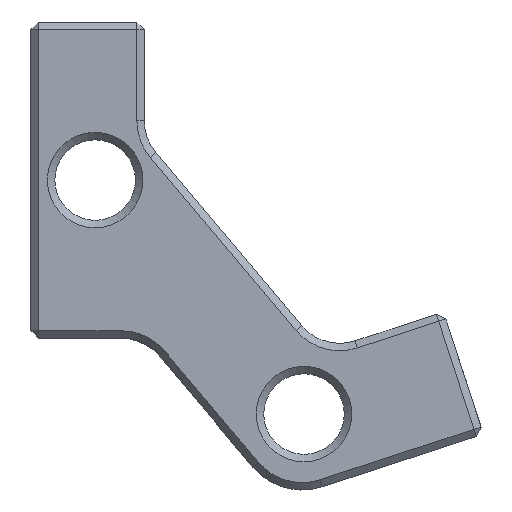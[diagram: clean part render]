
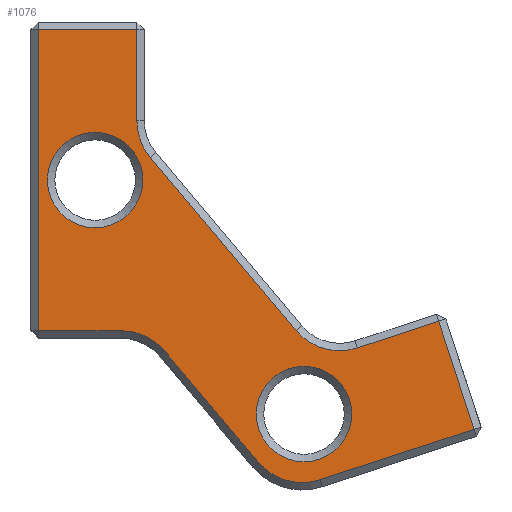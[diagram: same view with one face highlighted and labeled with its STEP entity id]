
A CAD part, front view. The second image highlights one B-rep face of the part: STEP entity #1076.
In plain terms, the highlighted planar face has unit normal (0, -1, 0).
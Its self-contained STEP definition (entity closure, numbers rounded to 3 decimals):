
#33=FACE_BOUND('',#162,.T.);
#34=FACE_BOUND('',#163,.T.);
#39=PLANE('',#1166);
#87=FACE_OUTER_BOUND('',#161,.T.);
#161=EDGE_LOOP('',(#752,#753,#754,#755,#756,#757,#758,#759,#760,#761,#762,
#763,#764));
#162=EDGE_LOOP('',(#765));
#163=EDGE_LOOP('',(#766));
#241=LINE('',#1606,#357);
#242=LINE('',#1610,#358);
#243=LINE('',#1614,#359);
#244=LINE('',#1616,#360);
#245=LINE('',#1618,#361);
#246=LINE('',#1620,#362);
#247=LINE('',#1624,#363);
#248=LINE('',#1628,#364);
#249=LINE('',#1629,#365);
#357=VECTOR('',#1279,10.);
#358=VECTOR('',#1282,10.);
#359=VECTOR('',#1285,10.);
#360=VECTOR('',#1286,10.);
#361=VECTOR('',#1287,10.);
#362=VECTOR('',#1288,10.);
#363=VECTOR('',#1291,10.);
#364=VECTOR('',#1294,10.);
#365=VECTOR('',#1295,10.);
#472=CIRCLE('',#1164,9.65);
#474=CIRCLE('',#1167,11.5);
#475=CIRCLE('',#1168,11.5);
#476=CIRCLE('',#1169,11.5);
#477=CIRCLE('',#1170,11.5);
#478=CIRCLE('',#1171,9.65);
#506=VERTEX_POINT('',#1598);
#508=VERTEX_POINT('',#1604);
#509=VERTEX_POINT('',#1605);
#510=VERTEX_POINT('',#1607);
#511=VERTEX_POINT('',#1609);
#512=VERTEX_POINT('',#1611);
#513=VERTEX_POINT('',#1613);
#514=VERTEX_POINT('',#1615);
#515=VERTEX_POINT('',#1617);
#516=VERTEX_POINT('',#1619);
#517=VERTEX_POINT('',#1621);
#518=VERTEX_POINT('',#1623);
#519=VERTEX_POINT('',#1625);
#520=VERTEX_POINT('',#1627);
#521=VERTEX_POINT('',#1630);
#592=EDGE_CURVE('',#506,#506,#472,.T.);
#595=EDGE_CURVE('',#508,#509,#241,.T.);
#596=EDGE_CURVE('',#510,#508,#474,.T.);
#597=EDGE_CURVE('',#511,#510,#242,.T.);
#598=EDGE_CURVE('',#512,#511,#475,.T.);
#599=EDGE_CURVE('',#513,#512,#243,.T.);
#600=EDGE_CURVE('',#514,#513,#244,.T.);
#601=EDGE_CURVE('',#515,#514,#245,.T.);
#602=EDGE_CURVE('',#516,#515,#246,.T.);
#603=EDGE_CURVE('',#517,#516,#476,.T.);
#604=EDGE_CURVE('',#518,#517,#247,.T.);
#605=EDGE_CURVE('',#519,#518,#477,.T.);
#606=EDGE_CURVE('',#520,#519,#248,.T.);
#607=EDGE_CURVE('',#509,#520,#249,.T.);
#608=EDGE_CURVE('',#521,#521,#478,.T.);
#752=ORIENTED_EDGE('',*,*,#595,.F.);
#753=ORIENTED_EDGE('',*,*,#596,.F.);
#754=ORIENTED_EDGE('',*,*,#597,.F.);
#755=ORIENTED_EDGE('',*,*,#598,.F.);
#756=ORIENTED_EDGE('',*,*,#599,.F.);
#757=ORIENTED_EDGE('',*,*,#600,.F.);
#758=ORIENTED_EDGE('',*,*,#601,.F.);
#759=ORIENTED_EDGE('',*,*,#602,.F.);
#760=ORIENTED_EDGE('',*,*,#603,.F.);
#761=ORIENTED_EDGE('',*,*,#604,.F.);
#762=ORIENTED_EDGE('',*,*,#605,.F.);
#763=ORIENTED_EDGE('',*,*,#606,.F.);
#764=ORIENTED_EDGE('',*,*,#607,.F.);
#765=ORIENTED_EDGE('',*,*,#608,.F.);
#766=ORIENTED_EDGE('',*,*,#592,.F.);
#1076=ADVANCED_FACE('',(#87,#33,#34),#39,.F.);
#1164=AXIS2_PLACEMENT_3D('',#1599,#1272,#1273);
#1166=AXIS2_PLACEMENT_3D('',#1603,#1277,#1278);
#1167=AXIS2_PLACEMENT_3D('',#1608,#1280,#1281);
#1168=AXIS2_PLACEMENT_3D('',#1612,#1283,#1284);
#1169=AXIS2_PLACEMENT_3D('',#1622,#1289,#1290);
#1170=AXIS2_PLACEMENT_3D('',#1626,#1292,#1293);
#1171=AXIS2_PLACEMENT_3D('',#1631,#1296,#1297);
#1272=DIRECTION('center_axis',(0.,-1.,0.));
#1273=DIRECTION('ref_axis',(1.,0.,0.));
#1277=DIRECTION('center_axis',(0.,1.,0.));
#1278=DIRECTION('ref_axis',(1.,0.,0.));
#1279=DIRECTION('',(0.95,0.,0.311));
#1280=DIRECTION('center_axis',(0.,-1.,0.));
#1281=DIRECTION('ref_axis',(-0.274,0.,-0.962));
#1282=DIRECTION('',(0.644,0.,-0.765));
#1283=DIRECTION('center_axis',(0.,-1.,0.));
#1284=DIRECTION('ref_axis',(-0.939,0.,-0.343));
#1285=DIRECTION('',(0.,0.,-1.));
#1286=DIRECTION('',(1.,0.,0.));
#1287=DIRECTION('',(0.,0.,1.));
#1288=DIRECTION('',(-1.,0.,0.));
#1289=DIRECTION('center_axis',(0.,-1.,0.));
#1290=DIRECTION('ref_axis',(0.422,0.,0.907));
#1291=DIRECTION('',(-0.644,0.,0.765));
#1292=DIRECTION('center_axis',(0.,1.,0.));
#1293=DIRECTION('ref_axis',(-1.,0.,0.));
#1294=DIRECTION('',(-0.95,0.,-0.311));
#1295=DIRECTION('',(0.311,0.,-0.95));
#1296=DIRECTION('center_axis',(0.,-1.,0.));
#1297=DIRECTION('ref_axis',(1.,0.,0.));
#1598=CARTESIAN_POINT('',(-9.248,-26.,126.355));
#1599=CARTESIAN_POINT('Origin',(0.402,-26.,126.355));
#1603=CARTESIAN_POINT('Origin',(-9.084,-26.,158.341));
#1604=CARTESIAN_POINT('',(11.172,-26.,139.736));
#1605=CARTESIAN_POINT('',(27.665,-26.,145.127));
#1606=CARTESIAN_POINT('',(13.729,-26.,140.571));
#1607=CARTESIAN_POINT('',(-1.197,-26.,143.258));
#1608=CARTESIAN_POINT('Origin',(7.599,-26.,150.666));
#1609=CARTESIAN_POINT('',(-30.724,-26.,178.318));
#1610=CARTESIAN_POINT('',(-4.377,-26.,147.034));
#1611=CARTESIAN_POINT('',(-33.428,-26.,185.726));
#1612=CARTESIAN_POINT('Origin',(-21.928,-26.,185.726));
#1613=CARTESIAN_POINT('',(-33.428,-26.,204.198));
#1614=CARTESIAN_POINT('',(-33.428,-26.,170.208));
#1615=CARTESIAN_POINT('',(-53.371,-26.,204.198));
#1616=CARTESIAN_POINT('',(-20.506,-26.,204.198));
#1617=CARTESIAN_POINT('',(-53.371,-26.,143.214));
#1618=CARTESIAN_POINT('',(-53.371,-26.,182.019));
#1619=CARTESIAN_POINT('',(-36.58,-26.,143.214));
#1620=CARTESIAN_POINT('',(-31.977,-26.,143.214));
#1621=CARTESIAN_POINT('',(-27.783,-26.,139.122));
#1622=CARTESIAN_POINT('Origin',(-36.58,-26.,131.714));
#1623=CARTESIAN_POINT('',(-8.796,-26.,116.576));
#1624=CARTESIAN_POINT('',(-30.137,-26.,141.916));
#1625=CARTESIAN_POINT('',(3.573,-26.,113.053));
#1626=CARTESIAN_POINT('Origin',(0.,-26.,123.984));
#1627=CARTESIAN_POINT('',(34.812,-26.,123.266));
#1628=CARTESIAN_POINT('',(4.544,-26.,113.371));
#1629=CARTESIAN_POINT('',(27.746,-26.,144.88));
#1630=CARTESIAN_POINT('',(-51.521,-26.,173.702));
#1631=CARTESIAN_POINT('Origin',(-41.871,-26.,173.702));
